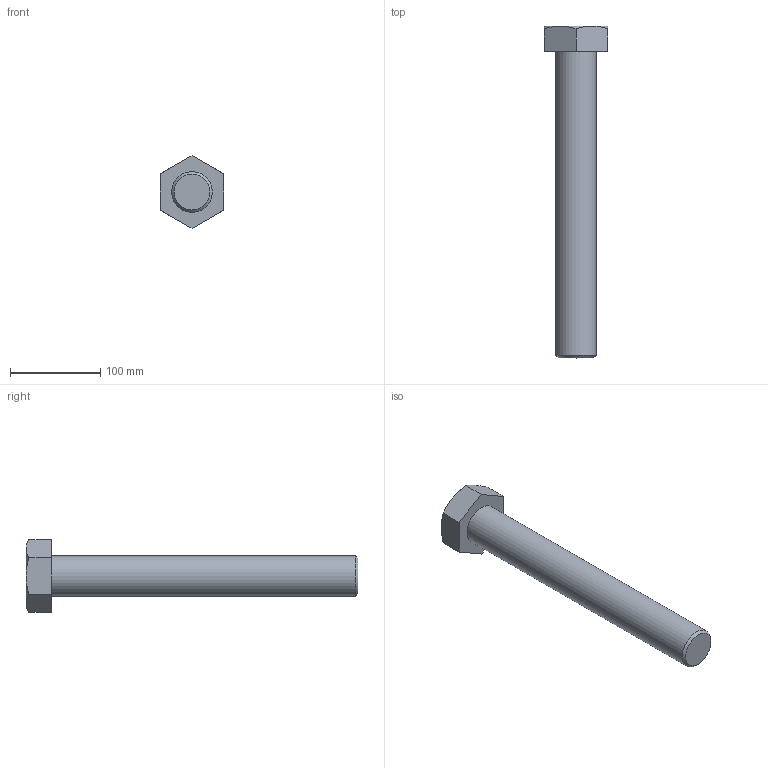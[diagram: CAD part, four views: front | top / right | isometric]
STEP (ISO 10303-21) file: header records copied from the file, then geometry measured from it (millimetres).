
FILE_DESCRIPTION(/* description */ (''),/* implementation_level */ '2;1');
FILE_NAME(/* name */ 'C:\Users\unitec\Documents\Inventor\各種小物\JIS\JIS B 1180 六角ボルト 等級C\hbc45\M45x340.stp',/* time_stamp */ '2015-02-13T14:58:24+09:00',/* author */ ('unitec'),/* organization */ (''),/* preprocessor_version */ 'ST-DEVELOPER v15.2',/* originating_system */ 'Autodesk Inventor 2014',/* authorisation */ '');
FILE_SCHEMA (('AUTOMOTIVE_DESIGN { 1 0 10303 214 3 1 1 }'));
Length unit declared in the file: millimetre
Products named in the file (1): M45x340
Bounding box: 70 x 368 x 80.83 mm (x, y, z)
Volume: 658676.5 mm3; surface area: 62905.7 mm2
Topology: 1 solids, 1 shells, 17 faces, 35 edges, 21 vertices
Faces by surface type: plane 9, cone 7, cylinder 1
Full cylindrical faces by diameter (mm): 45 x1
Entity records: 441 total; most frequent: CARTESIAN_POINT 96, ORIENTED_EDGE 66, DIRECTION 66, EDGE_CURVE 33, AXIS2_PLACEMENT_3D 27, VERTEX_POINT 21, EDGE_LOOP 20, ADVANCED_FACE 17
